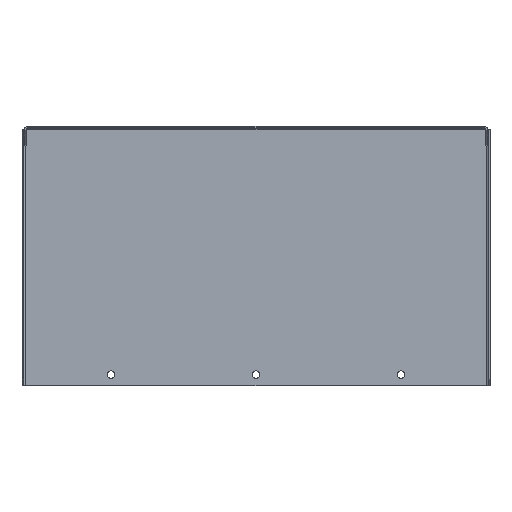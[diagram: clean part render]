
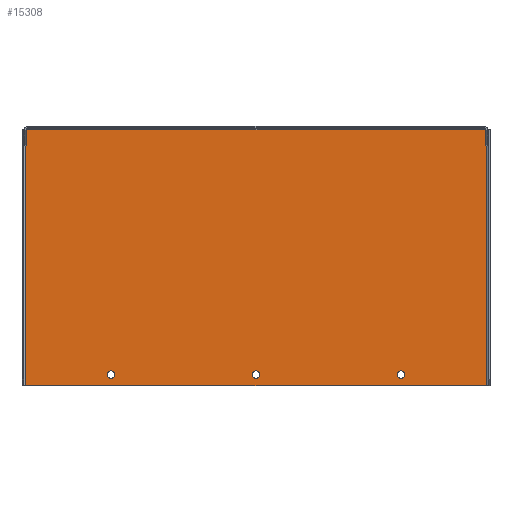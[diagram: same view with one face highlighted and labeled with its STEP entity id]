
A CAD part, top view. The second image highlights one B-rep face of the part: STEP entity #15308.
In plain terms, the highlighted planar face has unit normal (0, 0, 1).
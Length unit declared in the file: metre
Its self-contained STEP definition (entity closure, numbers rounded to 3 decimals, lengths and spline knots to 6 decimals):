
#478=CIRCLE('',#16685,0.002159);
#480=CIRCLE('',#16688,0.002159);
#482=CIRCLE('',#16691,0.002159);
#6242=ORIENTED_EDGE('',*,*,#8933,.T.);
#6243=ORIENTED_EDGE('',*,*,#8935,.T.);
#6244=ORIENTED_EDGE('',*,*,#8937,.T.);
#6245=ORIENTED_EDGE('',*,*,#8939,.F.);
#6246=ORIENTED_EDGE('',*,*,#8945,.F.);
#6247=ORIENTED_EDGE('',*,*,#8929,.T.);
#6248=ORIENTED_EDGE('',*,*,#8946,.F.);
#6249=ORIENTED_EDGE('',*,*,#8924,.F.);
#6250=ORIENTED_EDGE('',*,*,#8947,.F.);
#8924=EDGE_CURVE('',#11420,#11421,#12545,.F.);
#8929=EDGE_CURVE('',#11426,#11424,#12550,.F.);
#8933=EDGE_CURVE('',#11429,#11429,#478,.T.);
#8935=EDGE_CURVE('',#11431,#11431,#480,.T.);
#8937=EDGE_CURVE('',#11433,#11433,#482,.T.);
#8939=EDGE_CURVE('',#11434,#11436,#12554,.F.);
#8945=EDGE_CURVE('',#11426,#11434,#12560,.T.);
#8946=EDGE_CURVE('',#11421,#11424,#12561,.T.);
#8947=EDGE_CURVE('',#11436,#11420,#12562,.T.);
#11420=VERTEX_POINT('',#26148);
#11421=VERTEX_POINT('',#26149);
#11424=VERTEX_POINT('',#26157);
#11426=VERTEX_POINT('',#26160);
#11429=VERTEX_POINT('',#26168);
#11431=VERTEX_POINT('',#26173);
#11433=VERTEX_POINT('',#26178);
#11434=VERTEX_POINT('',#26181);
#11436=VERTEX_POINT('',#26184);
#12545=LINE('',#26147,#13647);
#12550=LINE('',#26159,#13652);
#12554=LINE('',#26183,#13656);
#12560=LINE('',#26193,#13662);
#12561=LINE('',#26194,#13663);
#12562=LINE('',#26195,#13664);
#13647=VECTOR('',#18782,1.);
#13652=VECTOR('',#18789,1.);
#13656=VECTOR('',#18813,1.);
#13662=VECTOR('',#18823,1.);
#13663=VECTOR('',#18824,1.);
#13664=VECTOR('',#18825,1.);
#14138=EDGE_LOOP('',(#6242));
#14139=EDGE_LOOP('',(#6243));
#14140=EDGE_LOOP('',(#6244));
#14141=EDGE_LOOP('',(#6245,#6246,#6247,#6248,#6249,#6250));
#14720=FACE_BOUND('',#14138,.T.);
#14721=FACE_BOUND('',#14139,.T.);
#14722=FACE_BOUND('',#14140,.T.);
#14723=FACE_BOUND('',#14141,.T.);
#15082=PLANE('',#16694);
#15308=ADVANCED_FACE('',(#14720,#14721,#14722,#14723),#15082,.F.);
#16685=AXIS2_PLACEMENT_3D('',#26167,#18796,#18797);
#16688=AXIS2_PLACEMENT_3D('',#26172,#18802,#18803);
#16691=AXIS2_PLACEMENT_3D('',#26177,#18808,#18809);
#16694=AXIS2_PLACEMENT_3D('',#26192,#18821,#18822);
#18782=DIRECTION('',(-1.,0.,0.));
#18789=DIRECTION('',(-1.,0.,0.));
#18796=DIRECTION('',(0.,0.,-1.));
#18797=DIRECTION('',(-1.,0.,0.));
#18802=DIRECTION('',(0.,0.,-1.));
#18803=DIRECTION('',(-1.,0.,0.));
#18808=DIRECTION('',(0.,0.,-1.));
#18809=DIRECTION('',(-1.,0.,0.));
#18813=DIRECTION('',(-1.,0.,0.));
#18821=DIRECTION('',(0.,0.,-1.));
#18822=DIRECTION('',(-1.,0.,0.));
#18823=DIRECTION('',(0.,1.,0.));
#18824=DIRECTION('',(0.,-1.,0.));
#18825=DIRECTION('',(1.,0.,0.));
#26147=CARTESIAN_POINT('',(0.,0.145961,0.000025));
#26148=CARTESIAN_POINT('',(0.263423,0.145961,0.000025));
#26149=CARTESIAN_POINT('',(0.264693,0.145961,0.000025));
#26157=CARTESIAN_POINT('',(0.264693,0.,0.000025));
#26159=CARTESIAN_POINT('',(0.,0.,0.000025));
#26160=CARTESIAN_POINT('',(0.001753,0.,0.000025));
#26167=CARTESIAN_POINT('',(0.050545,0.006403,0.000025));
#26168=CARTESIAN_POINT('',(0.048386,0.006403,0.000025));
#26172=CARTESIAN_POINT('',(0.133222,0.006403,0.000025));
#26173=CARTESIAN_POINT('',(0.131063,0.006403,0.000025));
#26177=CARTESIAN_POINT('',(0.215899,0.006403,0.000025));
#26178=CARTESIAN_POINT('',(0.21374,0.006403,0.000025));
#26181=CARTESIAN_POINT('',(0.001753,0.145961,0.000025));
#26183=CARTESIAN_POINT('',(0.,0.145961,0.000025));
#26184=CARTESIAN_POINT('',(0.003023,0.145961,0.000025));
#26192=CARTESIAN_POINT('',(0.,0.,0.000025));
#26193=CARTESIAN_POINT('',(0.001753,0.,0.000025));
#26194=CARTESIAN_POINT('',(0.264693,0.,0.000025));
#26195=CARTESIAN_POINT('',(0.,0.145961,0.000025));
